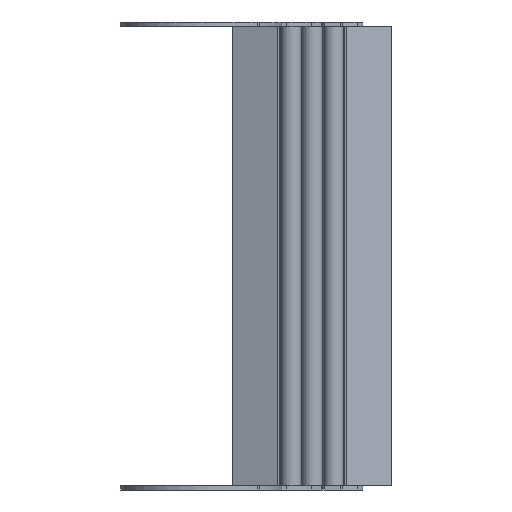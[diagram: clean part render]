
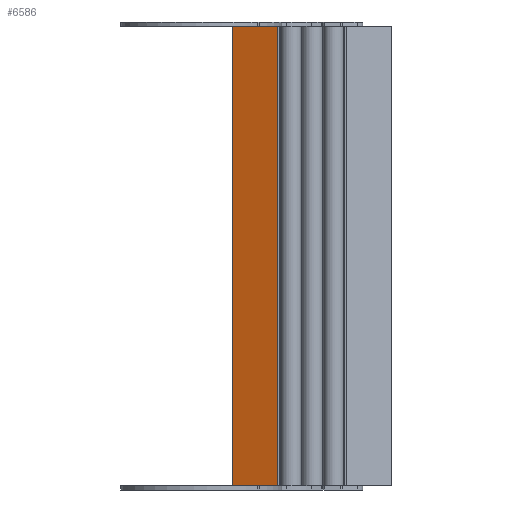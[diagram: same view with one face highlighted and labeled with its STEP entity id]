
A CAD part, front view. The second image highlights one B-rep face of the part: STEP entity #6586.
In plain terms, the highlighted planar face has unit normal (-0.342, -0.94, 0).
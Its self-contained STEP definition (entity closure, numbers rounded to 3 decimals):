
#138 = CARTESIAN_POINT ( 'NONE',  ( 56.745, 61.65, -342. ) ) ;
#271 = VECTOR ( 'NONE', #3574, 1000. ) ;
#805 = CARTESIAN_POINT ( 'NONE',  ( 56.745, 61.65, -342. ) ) ;
#873 = LINE ( 'NONE', #2404, #271 ) ;
#1252 = FACE_OUTER_BOUND ( 'NONE', #1650, .T. ) ;
#1381 = DIRECTION ( 'NONE',  ( -0.94, 0.342, 0. ) ) ;
#1552 = EDGE_CURVE ( 'NONE', #4618, #4584, #1746, .T. ) ;
#1650 = EDGE_LOOP ( 'NONE', ( #6592, #6148, #1965, #2888 ) ) ;
#1719 = LINE ( 'NONE', #138, #5148 ) ;
#1746 = LINE ( 'NONE', #805, #5780 ) ;
#1899 = PLANE ( 'NONE',  #5209 ) ;
#1965 = ORIENTED_EDGE ( 'NONE', *, *, #1552, .F. ) ;
#2404 = CARTESIAN_POINT ( 'NONE',  ( 56.745, 61.65, 0. ) ) ;
#2434 = DIRECTION ( 'NONE',  ( -0.94, 0.342, 0. ) ) ;
#2662 = EDGE_CURVE ( 'NONE', #4618, #3967, #1719, .T. ) ;
#2888 = ORIENTED_EDGE ( 'NONE', *, *, #2662, .T. ) ;
#3028 = VECTOR ( 'NONE', #4297, 1000. ) ;
#3468 = LINE ( 'NONE', #4325, #3028 ) ;
#3574 = DIRECTION ( 'NONE',  ( -0.94, 0.342, 0. ) ) ;
#3605 = CARTESIAN_POINT ( 'NONE',  ( 56.745, 61.65, 0. ) ) ;
#3816 = CARTESIAN_POINT ( 'NONE',  ( 23.4, 73.787, -342. ) ) ;
#3967 = VERTEX_POINT ( 'NONE', #3605 ) ;
#4015 = DIRECTION ( 'NONE',  ( 0., 0., 1. ) ) ;
#4297 = DIRECTION ( 'NONE',  ( 0., 0., 1. ) ) ;
#4298 = VERTEX_POINT ( 'NONE', #4430 ) ;
#4325 = CARTESIAN_POINT ( 'NONE',  ( 23.4, 73.787, -342. ) ) ;
#4430 = CARTESIAN_POINT ( 'NONE',  ( 23.4, 73.787, 0. ) ) ;
#4484 = EDGE_CURVE ( 'NONE', #3967, #4298, #873, .T. ) ;
#4584 = VERTEX_POINT ( 'NONE', #3816 ) ;
#4618 = VERTEX_POINT ( 'NONE', #5467 ) ;
#4626 = DIRECTION ( 'NONE',  ( 0.342, 0.94, 0. ) ) ;
#5103 = EDGE_CURVE ( 'NONE', #4584, #4298, #3468, .T. ) ;
#5143 = CARTESIAN_POINT ( 'NONE',  ( 56.745, 61.65, -342. ) ) ;
#5148 = VECTOR ( 'NONE', #4015, 1000. ) ;
#5209 = AXIS2_PLACEMENT_3D ( 'NONE', #5143, #4626, #2434 ) ;
#5467 = CARTESIAN_POINT ( 'NONE',  ( 56.745, 61.65, -342. ) ) ;
#5780 = VECTOR ( 'NONE', #1381, 1000. ) ;
#6148 = ORIENTED_EDGE ( 'NONE', *, *, #5103, .F. ) ;
#6586 = ADVANCED_FACE ( 'NONE', ( #1252 ), #1899, .F. ) ;
#6592 = ORIENTED_EDGE ( 'NONE', *, *, #4484, .T. ) ;
